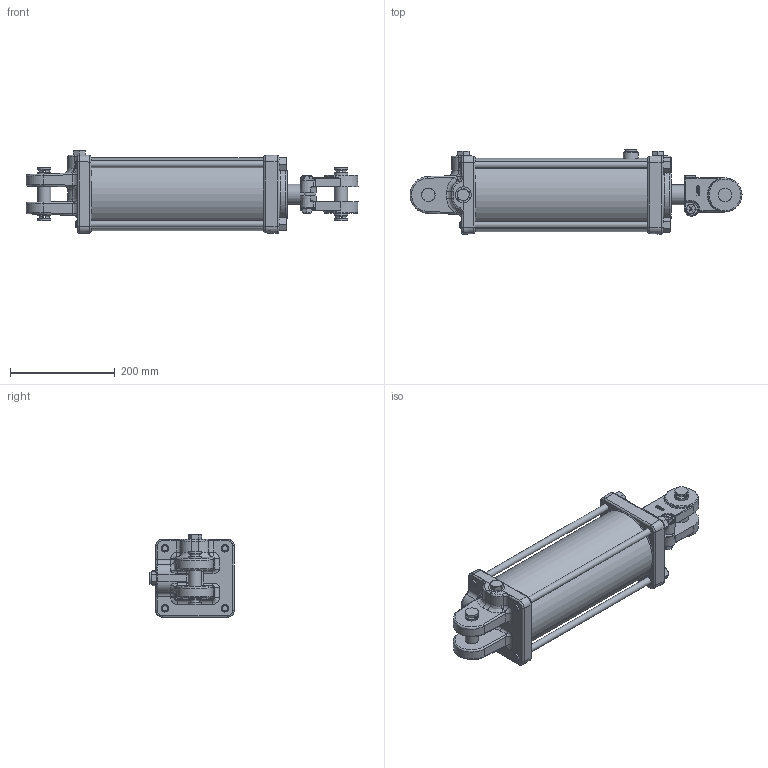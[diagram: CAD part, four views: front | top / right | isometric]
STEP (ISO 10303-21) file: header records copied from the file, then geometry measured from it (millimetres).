
FILE_DESCRIPTION((''),'2;1');
FILE_NAME('C:\Vault\Workspace\Vest\PMS-AM-2611.stp','2009-09-25T10:43:18',('newtonb'),(''),'Autodesk Inventor 2008','Autodesk Inventor 2008','');
FILE_SCHEMA(('AUTOMOTIVE_DESIGN { 1 0 10303 214 1 1 1 1 }'));
Length unit declared in the file: inch
Products named in the file (28): PMS-AM-2611V; 062100697V; 052100654V; 200300181V; 142100020V; 082100293V; 082100292V; 210800205V; 010800873V; 100000326V; 100000325V; 220000223V; 170002105V; 072100373V; 220000211V; 240064500V; 240061248V; 240000248V; 240011114V; 240000029V; 250014150V; 240020059V; 170301156AV; 170201176V; 220000107V; 200300104V; 200300040V; 190400004V
Assembly tree (35 placements, depth 3):
  PMS-AM-2611V
    062100697V
      052100654V
      200300181V
    142100020V
    082100293V
      082100292V
      210800205V
    010800873V
    100000326V
      100000325V
      220000223V
      170002105V
    072100373V
    220000211V
    240064500V
    240061248V  x2
    240000248V  x2
    240011114V
    240000029V
    250014150V
    240020059V
    170301156AV  x4
      170201176V
      220000107V
    200300104V
    200300040V  x3
    190400004V  x2
Bounding box: 632.6 x 160.46 x 157.66 mm (x, y, z)
Volume: 4120278.7 mm3; surface area: 781645.8 mm2
Topology: 34 solids, 34 shells, 1128 faces, 2528 edges, 1436 vertices
Faces by surface type: bspline 362, plane 278, cylinder 266, cone 161, torus 32, sphere 29
Full cylindrical faces by diameter (mm): 1.575 x1, 2.769 x1, 5.156 x2, 5.159 x2, 11.113 x1, 11.906 x2, 12.7 x4, 16.764 x3, 19.05 x4, 22.352 x1, 25.4 x6, 25.781 x2, 25.895 x2, 28.524 x1, 28.575 x1, 28.651 x1, 37.897 x1, 38.075 x2, 38.1 x1, 38.354 x1, 38.71 x1, 39.052 x1, 40.538 x1, 41.148 x1, 42.057 x2, 45.822 x1, 46.673 x1, 47.523 x1, 50.8 x1, 50.902 x1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
Entity records: 41147 total; most frequent: CARTESIAN_POINT 21072, ORIENTED_EDGE 3928, DIRECTION 3805, EDGE_CURVE 1964, AXIS2_PLACEMENT_3D 1619, VERTEX_POINT 1214, EDGE_LOOP 1214, FACE_OUTER_BOUND 970
